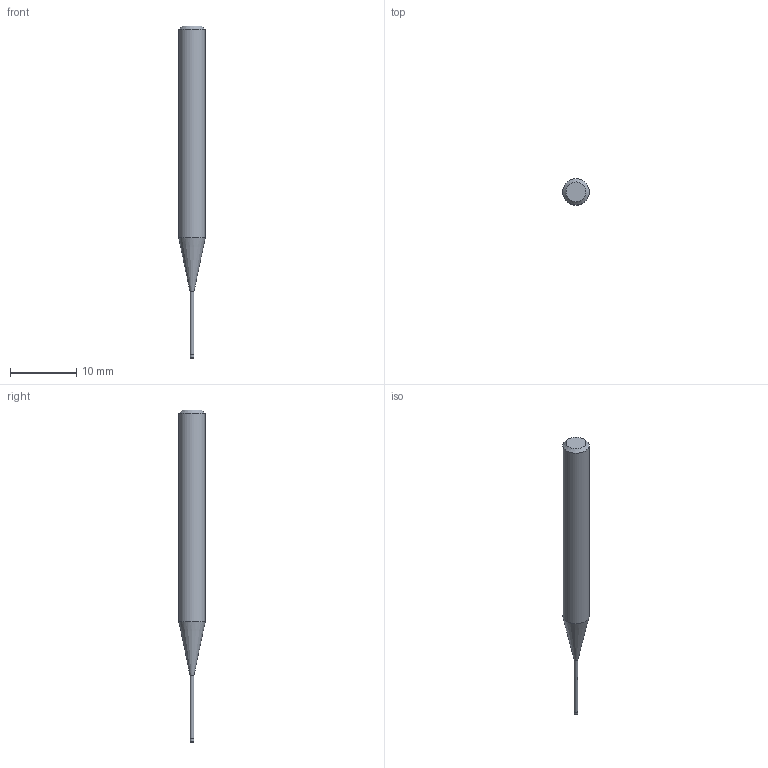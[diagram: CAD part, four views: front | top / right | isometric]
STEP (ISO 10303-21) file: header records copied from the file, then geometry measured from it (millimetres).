
FILE_DESCRIPTION((''),'2;1');
FILE_NAME('C:\Users\nsx150\AppData\Local\Temp\Mastercam 2021\3SYKECWX22\TEMP.step','2021-04-22T09:37:47',(''),(''),'STEP Write','Mastercam 2021 ... CNC Software, Inc.','');
FILE_SCHEMA(('AUTOMOTIVE_DESIGN'));
Length unit declared in the file: millimetre
Products named in the file (1): None
Bounding box: 4 x 4 x 50 mm (x, y, z)
Volume: 441.3 mm3; surface area: 487.2 mm2
Topology: 2 solids, 2 shells, 10 faces, 14 edges, 8 vertices
Faces by surface type: plane 4, cylinder 3, cone 2, torus 1
Full cylindrical faces by diameter (mm): 0.56 x1, 0.6 x1, 4 x1
Entity records: 232 total; most frequent: DIRECTION 40, CARTESIAN_POINT 28, AXIS2_PLACEMENT_3D 20, ORIENTED_EDGE 16, EDGE_LOOP 16, STYLED_ITEM 13, ADVANCED_FACE 10, FACE_BOUND 10
